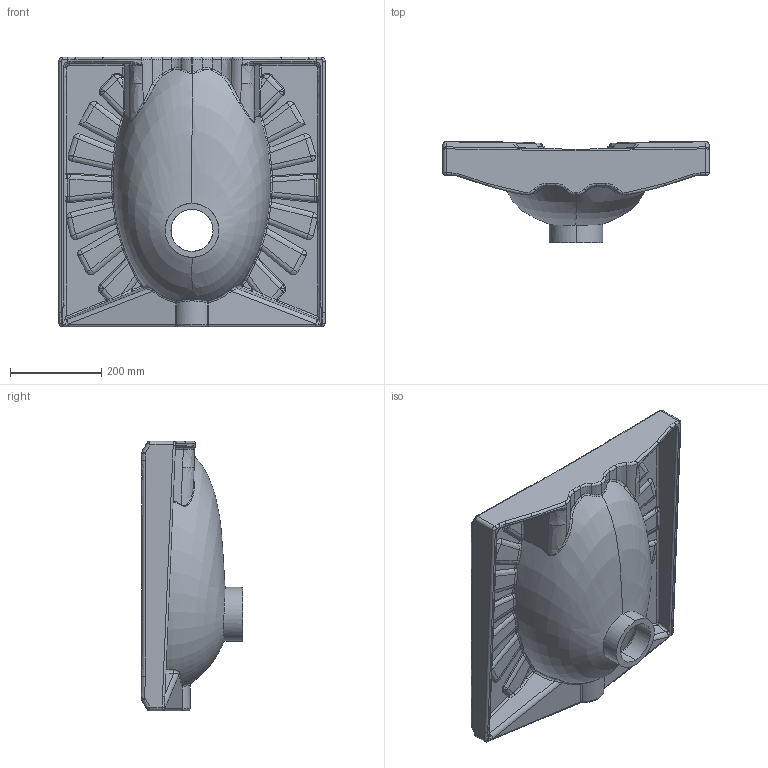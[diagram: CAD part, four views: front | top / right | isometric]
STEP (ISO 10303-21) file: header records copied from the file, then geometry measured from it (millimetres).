
FILE_DESCRIPTION (( 'STEP AP203' ), '1' );
FILE_NAME ('tp595.STEP', '2022-04-25T11:47:43', ( '' ), ( '' ), 'SwSTEP 2.0', 'SolidWorks 2021', '' );
FILE_SCHEMA (( 'CONFIG_CONTROL_DESIGN' ));
Length unit declared in the file: millimetre
Products named in the file (1): tp595
Bounding box: 583 x 222.25 x 590 mm (x, y, z)
Volume: 10390786 mm3; surface area: 1258997.6 mm2
Topology: 1 solids, 1 shells, 807 faces, 1956 edges, 1100 vertices
Faces by surface type: bspline 618, sphere 110, cylinder 44, plane 24, torus 11
Entity records: 87380 total; most frequent: CARTESIAN_POINT 73352, ORIENTED_EDGE 3808, EDGE_CURVE 1904, DIRECTION 1750, VERTEX_POINT 1100, B_SPLINE_CURVE_WITH_KNOTS 1073, AXIS2_PLACEMENT_3D 838, EDGE_LOOP 810
